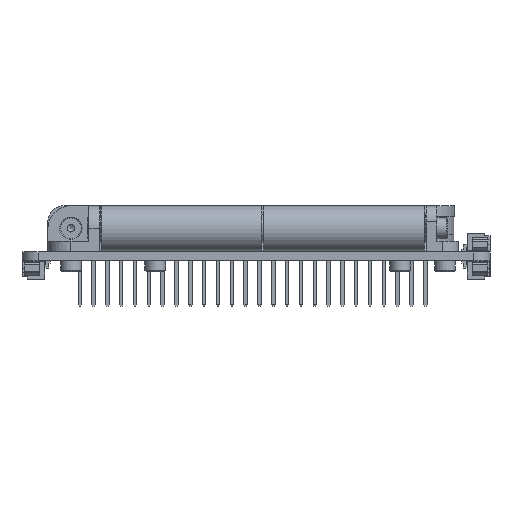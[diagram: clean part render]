
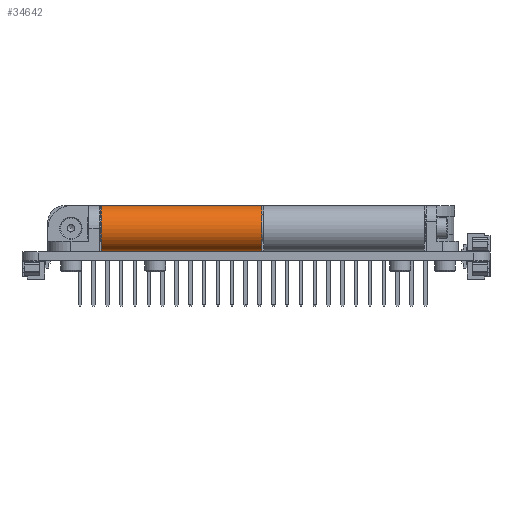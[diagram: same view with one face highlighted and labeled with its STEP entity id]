
A CAD part, front view. The second image highlights one B-rep face of the part: STEP entity #34642.
In plain terms, the highlighted cylindrical face has radius 4.243 mm (diameter 8.486 mm), a full revolution.
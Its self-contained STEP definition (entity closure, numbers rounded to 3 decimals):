
#2666=FACE_OUTER_BOUND('',#4775,.T.);
#4775=EDGE_LOOP('',(#25689,#25690,#25691,#25692));
#6869=LINE('',#49811,#11319);
#11319=VECTOR('',#40743,4.243);
#15809=CIRCLE('',#37290,4.243);
#15810=CIRCLE('',#37291,4.243);
#16393=VERTEX_POINT('',#49808);
#16394=VERTEX_POINT('',#49810);
#19955=EDGE_CURVE('',#16393,#16393,#15809,.T.);
#19956=EDGE_CURVE('',#16393,#16394,#6869,.T.);
#19957=EDGE_CURVE('',#16394,#16394,#15810,.T.);
#25689=ORIENTED_EDGE('',*,*,#19955,.F.);
#25690=ORIENTED_EDGE('',*,*,#19956,.T.);
#25691=ORIENTED_EDGE('',*,*,#19957,.F.);
#25692=ORIENTED_EDGE('',*,*,#19956,.F.);
#34282=CYLINDRICAL_SURFACE('',#37289,4.243);
#34642=ADVANCED_FACE('',(#2666),#34282,.T.);
#37289=AXIS2_PLACEMENT_3D('',#49807,#40739,#40740);
#37290=AXIS2_PLACEMENT_3D('',#49809,#40741,#40742);
#37291=AXIS2_PLACEMENT_3D('',#49812,#40744,#40745);
#40739=DIRECTION('center_axis',(0.,1.,0.));
#40740=DIRECTION('ref_axis',(1.,0.,0.));
#40741=DIRECTION('center_axis',(0.,1.,0.));
#40742=DIRECTION('ref_axis',(1.,0.,0.));
#40743=DIRECTION('',(0.,-1.,0.));
#40744=DIRECTION('center_axis',(0.,-1.,0.));
#40745=DIRECTION('ref_axis',(1.,0.,0.));
#49807=CARTESIAN_POINT('Origin',(0.,0.,0.));
#49808=CARTESIAN_POINT('',(-4.243,29.559,0.));
#49809=CARTESIAN_POINT('Origin',(0.,29.559,0.));
#49810=CARTESIAN_POINT('',(-4.243,0.,0.));
#49811=CARTESIAN_POINT('',(-4.243,0.,0.));
#49812=CARTESIAN_POINT('Origin',(0.,0.,0.));
